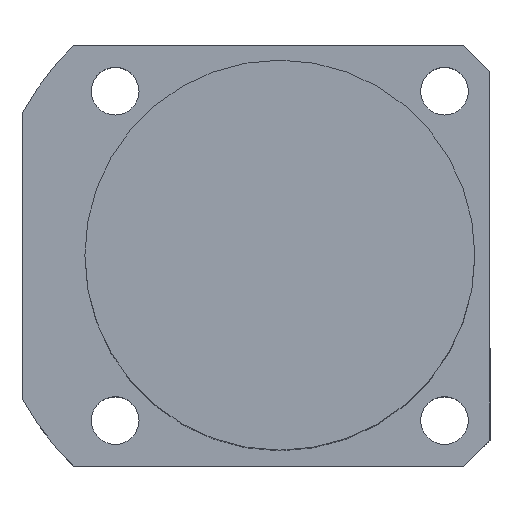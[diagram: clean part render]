
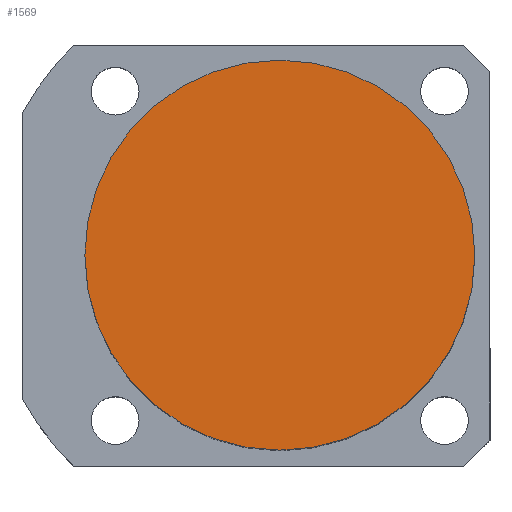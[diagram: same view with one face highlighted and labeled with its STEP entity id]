
A CAD part, top view. The second image highlights one B-rep face of the part: STEP entity #1569.
In plain terms, the highlighted planar face has unit normal (0, 0, 1).
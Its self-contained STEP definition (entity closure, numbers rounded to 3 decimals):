
#54 = VERTEX_POINT ( 'NONE', #401 ) ;
#109 = CIRCLE ( 'NONE', #312, 45. ) ;
#312 = AXIS2_PLACEMENT_3D ( 'NONE', #585, #1700, #1284 ) ;
#354 = EDGE_LOOP ( 'NONE', ( #1246, #1063 ) ) ;
#401 = CARTESIAN_POINT ( 'NONE',  ( -45., 0., 109.5 ) ) ;
#585 = CARTESIAN_POINT ( 'NONE',  ( 0., 0., 109.5 ) ) ;
#635 = FACE_OUTER_BOUND ( 'NONE', #354, .T. ) ;
#668 = VERTEX_POINT ( 'NONE', #1073 ) ;
#678 = DIRECTION ( 'NONE',  ( 1., 0., 0. ) ) ;
#795 = PLANE ( 'NONE',  #1054 ) ;
#1051 = EDGE_CURVE ( 'NONE', #54, #668, #1738, .T. ) ;
#1054 = AXIS2_PLACEMENT_3D ( 'NONE', #1632, #1494, #678 ) ;
#1063 = ORIENTED_EDGE ( 'NONE', *, *, #1392, .T. ) ;
#1073 = CARTESIAN_POINT ( 'NONE',  ( 45., 0., 109.5 ) ) ;
#1195 = CARTESIAN_POINT ( 'NONE',  ( 0., 0., 109.5 ) ) ;
#1246 = ORIENTED_EDGE ( 'NONE', *, *, #1051, .T. ) ;
#1284 = DIRECTION ( 'NONE',  ( 1., 0., 0. ) ) ;
#1392 = EDGE_CURVE ( 'NONE', #668, #54, #109, .T. ) ;
#1428 = DIRECTION ( 'NONE',  ( 1., 0., 0. ) ) ;
#1494 = DIRECTION ( 'NONE',  ( 0., 0., 1. ) ) ;
#1569 = ADVANCED_FACE ( 'NONE', ( #635 ), #795, .T. ) ;
#1586 = AXIS2_PLACEMENT_3D ( 'NONE', #1195, #1714, #1428 ) ;
#1632 = CARTESIAN_POINT ( 'NONE',  ( 0., 0., 109.5 ) ) ;
#1700 = DIRECTION ( 'NONE',  ( 0., 0., 1. ) ) ;
#1714 = DIRECTION ( 'NONE',  ( 0., 0., 1. ) ) ;
#1738 = CIRCLE ( 'NONE', #1586, 45. ) ;
